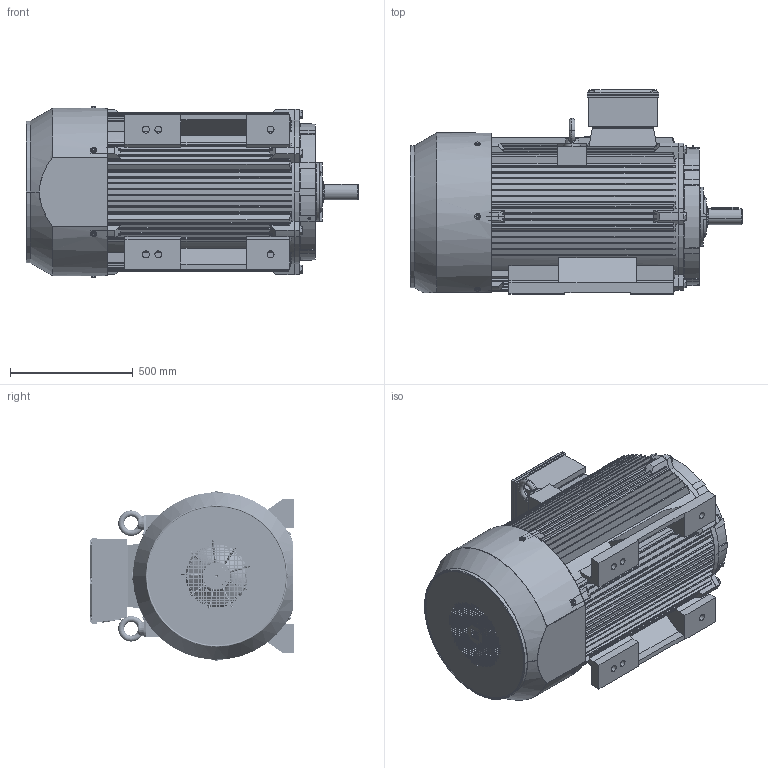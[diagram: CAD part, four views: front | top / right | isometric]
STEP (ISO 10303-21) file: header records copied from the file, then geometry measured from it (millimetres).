
FILE_DESCRIPTION (( 'STEP AP203' ), '1' );
FILE_NAME ('Motor-315M-2_B3_Step.STEP', '2024-06-26T10:34:42', ( '' ), ( '' ), 'SwSTEP 2.0', 'SolidWorks 2021', '' );
FILE_SCHEMA (( 'CONFIG_CONTROL_DESIGN' ));
Length unit declared in the file: millimetre
Products named in the file (22): M63_________^Motor-315M-2_B3_Step(2)_Motor-315M-2_B3_Step; TC 315M-L_________^Motor-315M-2_B3_Step(2)_Motor-315M-2_B3_Step; M20-70_____^Motor-315M-2_B3_Step(2)_Motor-315M-2_B3_Step; TX315___________________^Motor-315M-2_B3_Step(2)_Motor-315M-2_B3_Step; Motor-315M-2_B3_Step; ___________________^Motor-315M-2_B3_Step(2)_Motor-315M-2_B3_Step; ___________^Motor-315M-2_B3_Step(2)_Motor-315M-2_B3_Step; TE315-2_________-0^Motor-315M-2_B3_Step(2)_Motor-315M-2_B3_Step; TE315-2________(____+1)_____^Motor-315M-2_B3_Step(2)_Motor-315M-2_B3_Step; TC 315_____________-1^Motor-315M-2_B3_Step(2)_Motor-315M-2_B3_Step; Motor-315M-2_B3_Step(2)^Motor-315M-2_B3_Step; ____110-85-12_____^Motor-315M-2_B3_Step(2)_Motor-315M-2_B3_Step; M10-25_____^Motor-315M-2_B3_Step(2)_Motor-315M-2_B3_Step; ____M30_____^Motor-315M-2_B3_Step(2)_Motor-315M-2_B3_Step; TC 315_____________^Motor-315M-2_B3_Step(2)_Motor-315M-2_B3_Step; TX315_______________^Motor-315M-2_B3_Step(2)_Motor-315M-2_B3_Step; TC 315-4_________^Motor-315M-2_B3_Step(2)_Motor-315M-2_B3_Step; TE315-2_________^Motor-315M-2_B3_Step(2)_Motor-315M-2_B3_Step; M10-90_____^Motor-315M-2_B3_Step(2)_Motor-315M-2_B3_Step; TE315-2_____________^Motor-315M-2_B3_Step(2)_Motor-315M-2_B3_Step; _________^Motor-315M-2_B3_Step(2)_Motor-315M-2_B3_Step; TC 315L-2 _______^Motor-315M-2_B3_Step(2)_Motor-315M-2_B3_Step
Assembly tree (44 placements, depth 3):
  Motor-315M-2_B3_Step
    Motor-315M-2_B3_Step(2)^Motor-315M-2_B3_Step
      ___________________^Motor-315M-2_B3_Step(2)_Motor-315M-2_B3_Step  x6
      TC 315_____________^Motor-315M-2_B3_Step(2)_Motor-315M-2_B3_Step
      M20-70_____^Motor-315M-2_B3_Step(2)_Motor-315M-2_B3_Step  x6
      M10-90_____^Motor-315M-2_B3_Step(2)_Motor-315M-2_B3_Step  x4
      ___________^Motor-315M-2_B3_Step(2)_Motor-315M-2_B3_Step  x2
      M10-25_____^Motor-315M-2_B3_Step(2)_Motor-315M-2_B3_Step  x6
      ____M30_____^Motor-315M-2_B3_Step(2)_Motor-315M-2_B3_Step  x2
      TC 315-4_________^Motor-315M-2_B3_Step(2)_Motor-315M-2_B3_Step
      _________^Motor-315M-2_B3_Step(2)_Motor-315M-2_B3_Step
      TX315_______________^Motor-315M-2_B3_Step(2)_Motor-315M-2_B3_Step
      M63_________^Motor-315M-2_B3_Step(2)_Motor-315M-2_B3_Step  x2
      TE315-2_________^Motor-315M-2_B3_Step(2)_Motor-315M-2_B3_Step  x2
      TE315-2________(____+1)_____^Motor-315M-2_B3_Step(2)_Motor-315M-2_B3_Step
      TX315___________________^Motor-315M-2_B3_Step(2)_Motor-315M-2_B3_Step
      TE315-2_____________^Motor-315M-2_B3_Step(2)_Motor-315M-2_B3_Step  x2
      ____110-85-12_____^Motor-315M-2_B3_Step(2)_Motor-315M-2_B3_Step
      TC 315M-L_________^Motor-315M-2_B3_Step(2)_Motor-315M-2_B3_Step
      TE315-2_________-0^Motor-315M-2_B3_Step(2)_Motor-315M-2_B3_Step
      TC 315_____________-1^Motor-315M-2_B3_Step(2)_Motor-315M-2_B3_Step
      TC 315L-2 _______^Motor-315M-2_B3_Step(2)_Motor-315M-2_B3_Step
Bounding box: 1352 x 831 x 694.6 mm (x, y, z)
Volume: 71215541.7 mm3; surface area: 12141673.6 mm2
Topology: 45 solids, 45 shells, 7724 faces, 21916 edges, 14418 vertices
Faces by surface type: plane 3907, cylinder 3062, cone 445, torus 212, bspline 90, sphere 8
Entity records: 246997 total; most frequent: CARTESIAN_POINT 61512, ORIENTED_EDGE 38980, DIRECTION 37558, EDGE_CURVE 19490, VERTEX_POINT 12886, AXIS2_PLACEMENT_3D 12823, LINE 11912, VECTOR 11912
